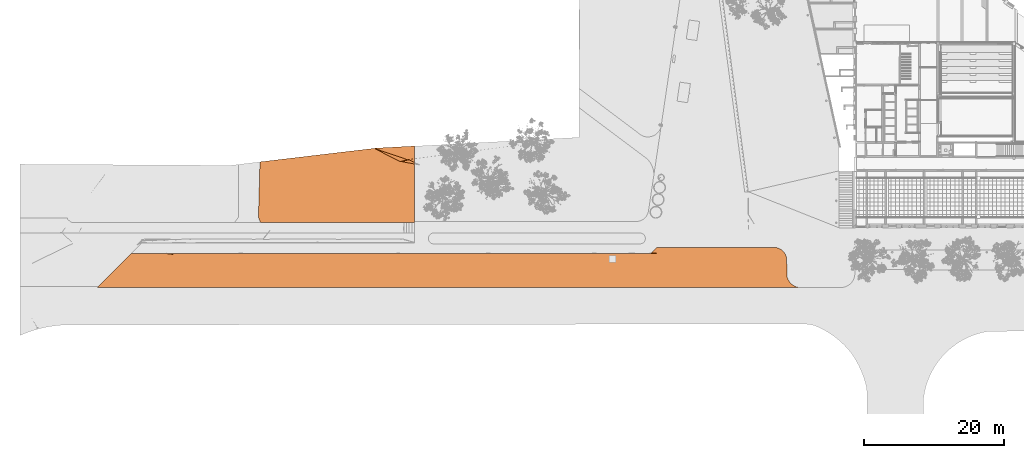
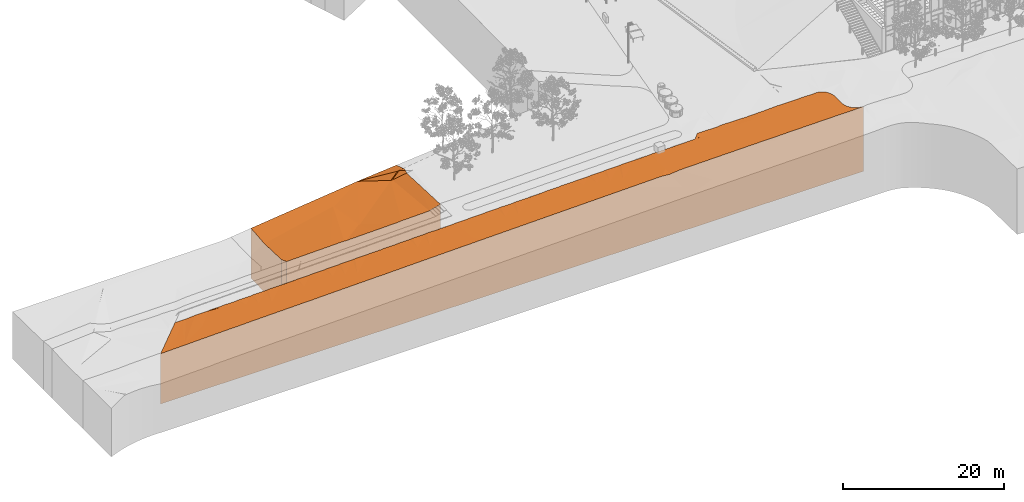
# One storey, part 209 of 246: 2 proxies.
"""IFC2X3 building model written with IfcOpenShell, lengths in millimetres."""

from ifc_helpers import new_model, entity, si_unit, converted_unit, derived_unit, money_unit, direction, frame, origin_with_axes, place, context, subcontext, project, spatial, faceted_brep, material, type_object, element, save


model = new_model("IFC2X3")

# Units and contexts
model_context = context("Model", 3, precision=0.01, world=origin_with_axes(), true_north=direction((0.0, 1.0)))
body_context = subcontext(model_context, "Body", "Model", "MODEL_VIEW")
ifc_project = project(units=[si_unit("LENGTHUNIT", "METRE", prefix="MILLI"), si_unit("AREAUNIT", "SQUARE_METRE"), si_unit("VOLUMEUNIT", "CUBIC_METRE"), converted_unit("PLANEANGLEUNIT", "DEGREE", entity("IfcPlaneAngleMeasure", 0.0174532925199), si_unit("PLANEANGLEUNIT", "RADIAN"), dimensions=[0, 0, 0, 0, 0, 0, 0]), si_unit("SOLIDANGLEUNIT", "STERADIAN"), money_unit("EUR"), converted_unit("TIMEUNIT", "Year", entity("IfcTimeMeasure", 31556926.0), si_unit("TIMEUNIT", "SECOND"), dimensions=[0, 0, 1, 0, 0, 0, 0]), si_unit("MASSUNIT", "GRAM", prefix="KILO"), si_unit("THERMODYNAMICTEMPERATUREUNIT", "DEGREE_CELSIUS"), si_unit("LUMINOUSINTENSITYUNIT", "LUMEN"), si_unit("ENERGYUNIT", "JOULE", prefix="MEGA"), derived_unit("THERMALCONDUCTANCEUNIT", [(si_unit("POWERUNIT", "WATT"), 1), (si_unit("LENGTHUNIT", "METRE"), -1), (si_unit("THERMODYNAMICTEMPERATUREUNIT", "KELVIN"), -1)]), derived_unit("SPECIFICHEATCAPACITYUNIT", [(si_unit("ENERGYUNIT", "JOULE"), 1), (si_unit("MASSUNIT", "GRAM", prefix="KILO"), -1), (si_unit("THERMODYNAMICTEMPERATUREUNIT", "KELVIN"), -1)]), derived_unit("MASSDENSITYUNIT", [(si_unit("MASSUNIT", "GRAM", prefix="KILO"), 1), (si_unit("VOLUMEUNIT", "CUBIC_METRE"), -1)])], contexts=[model_context])

# Site, building, storey
site_placement = place(None, origin_with_axes())
site = spatial("IfcSite", under=ifc_project, at=site_placement, Name="L.Koidula tn 11b", CompositionType="ELEMENT")
building_placement = place(site_placement, origin_with_axes())
building = spatial("IfcBuilding", under=site, at=building_placement, Name="Rakvere Riigigümnaasium", CompositionType="ELEMENT")
storey_placement = place(building_placement, origin_with_axes())
storey = spatial("IfcBuildingStorey", under=building, at=storey_placement, Name="1.korrus 0,00", CompositionType="ELEMENT", Elevation=0.0)

# Proxies
ifc_material_1 = material(Name="Roheala")
building_element_proxy_type_1 = type_object("IfcBuildingElementProxyType", Name="Roheala", PredefinedType="NOTDEFINED")
proxy_1_placement = place(storey_placement, frame((-50176.6705485, 5736.40419077, -10000.0), z_axis=(0.0, 0.0, 1.0), x_axis=(1.0, 0.0, 0.0)))
element("IfcBuildingElementProxy", 1, at=proxy_1_placement, inside=storey, type_object=building_element_proxy_type_1, material=ifc_material_1, Name="Roheala", context=body_context, shape_type="Brep", body=[
    faceted_brep([(16877.4778887, 10667.1884312, 7730.0), (22328.5963499, 10955.5426082, 7964.84720725), (22328.5963499, 10955.5426079, 0.0), (16877.4778887, 10667.1884312, 0.0), (22328.5963499, 10939.488365, 7975.38298176), (16573.1959533, 10631.116898, 7729.99999998), (22328.5963499, 5403.92965459, 8463.53694938), (22328.5963499, 0.0, 8687.55310047), (22328.5963499, 0.0, 0.0), (22328.5963499, 9119.61135897, 8585.85384289), (22328.5963499, 9094.25333933, 8582.61128806), (22328.5963499, 8934.02886416, 8592.22761851), (22328.5963499, 8671.7660686, 8570.0), (22328.5963499, 8629.38698405, 8570.0), (22328.5963499, 8391.7743133, 8320.44159755), (295.800167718, 0.535725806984, 0.0), (0.0, 781.068080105, 0.0), (215.231104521, 8691.9386778, 0.0), (20811.2168008, 0.0, 0.0), (215.231104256, 8691.93868004, 7539.6358402), (21380.8134099, 8995.62824052, 8570.0), (20844.8698516, 0.0, 8261.183063), (20811.2168008, 0.0, 8250.72325494), (21580.8134099, 8995.62824052, 8570.0), (20481.6853864, 8734.1562761, 7730.0), (20753.5750972, 0.00150521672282, 8232.80738791), (261.885666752, 90.0264299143, 7721.4612384), (0.0, 781.068080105, 7664.89892207), (295.800167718, 0.535725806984, 7728.53965082), (275.657588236, 53.6862534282, 7724.1333778), (197.895851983, 8054.77733484, 7500.99364094), (110.712437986, 4850.33015268, 7371.43005104), (122.341743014, 5277.76803356, 7340.0), (125.466775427, 5392.62934549, 7345.92364521), (6078.81976704, 0.384711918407, 7870.00737677), (20699.2292839, 0.00292436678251, 8232.80738099), (16746.5243081, 0.106142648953, 8136.1138474), (16209.2754863, 0.12017200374, 8084.17802217), (12523.015072, 0.216432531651, 7994.0029261), (12503.3669168, 0.216945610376, 7994.00282989), (8817.09700519, 0.313206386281, 7903.82749508), (8560.18422317, 0.319915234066, 7934.33358779), (6592.49397331, 0.371298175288, 7886.19873262), (11405.7484864, 7707.72111136, 7530.0), (20281.6853864, 8734.1562761, 7730.0), (297.138269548, 5277.76803356, 7340.0), (12387.4097871, 2741.46843888, 7480.0), (12187.4097871, 2741.46843888, 7480.0), (11605.7484864, 7707.72111136, 7530.0), (11608.571617, 7689.78443061, 7529.81941415)], [[[0, 1, 2, 3]], [[4, 1, 0, 5]], [[6, 7, 8, 2, 1, 4, 9, 10, 11, 12, 13, 14]], [[15, 16, 17, 3, 2, 8, 18]], [[5, 0, 3, 17, 19]], [[9, 4, 5, 20]], [[7, 6, 21]], [[21, 22, 18, 8, 7]], [[10, 9, 20, 23]], [[11, 10, 23]], [[12, 11, 23]], [[13, 12, 23]], [[14, 13, 23, 24]], [[6, 14, 24, 25, 22, 21]], [[26, 27, 16, 15, 28, 29]], [[30, 19, 17, 16, 27, 31, 32, 33]], [[34, 28, 15, 18, 22, 25, 35, 36, 37, 38, 39, 40, 41, 42]], [[5, 19, 30, 43]], [[20, 5, 44]], [[44, 24, 23, 20]], [[35, 25, 24, 44]], [[27, 26, 31]], [[28, 34, 45, 29]], [[26, 29, 45, 32, 31]], [[33, 32, 45]], [[30, 33, 45, 43]], [[36, 35, 44]], [[37, 36, 44, 46]], [[38, 37, 46]], [[39, 38, 46, 47]], [[40, 39, 47]], [[41, 40, 47, 43]], [[42, 41, 43]], [[34, 42, 43, 45]], [[48, 5, 43]], [[46, 44, 5]], [[49, 48, 43, 47, 46]], [[49, 5, 48]], [[5, 49, 46]]]),
])
ifc_material_2 = material(Name="Asfalt")
building_element_proxy_type_2 = type_object("IfcBuildingElementProxyType", Name="Asfalt", PredefinedType="NOTDEFINED")
proxy_2_placement = place(storey_placement, frame((-73297.5655009, -3564.03895232, -10000.0), z_axis=(0.0, 0.0, 1.0), x_axis=(1.0, 0.0, 0.0)))
element("IfcBuildingElementProxy", 2, at=proxy_2_placement, inside=storey, type_object=building_element_proxy_type_2, material=ifc_material_2, Name="Parkimisala", context=body_context, shape_type="Brep", body=[
    faceted_brep([(0.0, 0.0, 7606.31808736), (3386.76623469, 0.174055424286, 7700.0), (3473.62499258, 96.3402305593, 7700.0), (5998.84073362, 4893.33674949, 7650.0), (3472.55105194, 2096.33994313, 7650.0), (288.698134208, 288.704452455, 7607.09086194), (0.0, 0.0, 0.0), (100662.353505, 5.1733209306, 0.0), (100662.353505, 5.1733209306, 9815.58551147), (100639.963195, 5.1721702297, 9811.55759858), (100573.520285, 5.16875554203, 9799.7765437), (100552.548513, 5.16767774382, 9799.47431158), (98758.1492193, 5.0754585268, 9750.0), (97273.6056313, 4.99916366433, 9750.0), (93601.2758281, 4.81043232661, 9700.0), (89928.9460265, 4.62170098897, 9650.0), (89892.394786, 4.61982251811, 9649.50234097), (87529.1656203, 4.49836953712, 9600.0), (86476.6868159, 4.4442796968, 9600.0), (83439.4376058, 4.28818693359, 9550.0), (80402.1883972, 4.13209417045, 9500.0), (77364.9391884, 3.97600140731, 9450.0), (74327.6899799, 3.81990864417, 9400.0), (74310.1189043, 3.81900561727, 9399.7107403), (72951.3480991, 3.74917457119, 9250.57346946), (71766.7394745, 3.68829420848, 9350.0), (69600.4829078, 3.57696420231, 9300.0), (67434.2262209, 3.46563418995, 9250.0), (65267.9695351, 3.35430417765, 9200.0), (63101.7128482, 3.2429741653, 9150.0), (60935.4561613, 3.13164415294, 9100.0), (60892.1167524, 3.12941681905, 9098.99967051), (59087.517054, 3.0366733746, 9050.0), (58769.1994764, 3.02031414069, 9050.0), (56602.9427895, 2.90898412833, 9000.0), (54436.6862136, 2.79765412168, 8950.0), (52270.4295256, 2.68632410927, 8900.0), (50104.1728376, 2.57499409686, 8850.0), (47937.9161507, 2.46366408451, 8800.0), (45771.6594638, 2.35233407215, 8750.0), (45763.5573694, 2.35191768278, 8749.81299321), (45745.8275539, 2.35100649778, 8749.38567486), (44164.0714655, 2.26971561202, 8700.0), (43696.7723154, 2.24569979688, 8700.0), (41652.7979031, 2.14065421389, 8650.0), (39608.8234916, 2.03560863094, 8600.0), (37564.8490793, 1.93056304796, 8550.0), (35520.8746676, 1.825517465, 8500.0), (35487.9567569, 1.82382572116, 8499.19475727), (33778.6959695, 1.73598201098, 8450.0), (33476.9002554, 1.72047188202, 8450.0), (33463.2570501, 1.71977071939, 8449.66625792), (32153.4753983, 1.65245736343, 8400.0), (31432.9258438, 1.61542629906, 8400.0), (29388.9514316, 1.51038071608, 8350.0), (27344.9770199, 1.40533513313, 8300.0), (25301.0026084, 1.30028955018, 8250.0), (23257.028197, 1.19524396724, 8200.0), (23249.8371389, 1.19487439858, 8199.82409129), (23234.2069954, 1.19407112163, 8199.45074045), (21726.9437298, 1.11660863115, 8150.0), (21164.366901, 1.08769622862, 8150.0), (19032.8215464, 0.978150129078, 8100.0), (16901.2761788, 0.868604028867, 8050.0), (14769.730798, 0.759057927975, 8000.0), (12638.1854323, 0.649511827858, 7950.0), (12624.9512256, 0.648831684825, 7949.6895631), (11247.9661072, 0.578064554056, 7900.0), (10617.118686, 0.545643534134, 7900.0), (8809.53057307, 0.452746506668, 7850.0), (7001.94245939, 0.359849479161, 7800.0), (5194.3543448, 0.266952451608, 7750.0), (5065.74236552, 0.260342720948, 7746.44244226), (3473.67662864, 0.178521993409, 7700.0), (6478.26979039, 4900.45919065, 7650.08172194), (6229.34829425, 4900.46941823, 7650.0), (3471.81242302, 3471.88840469, 7650.0), (4900.41677371, 4900.52402083, 7650.0), (4900.41677371, 4900.52402083, 0.0), (79349.5777409, 4897.46508418, 0.0), (80205.6124778, 5750.51240294, 0.0), (96978.1072217, 5750.51551246, 0.0), (97126.5599097, 5742.16686858, 0.0), (97262.0794881, 5722.82065598, 0.0), (97395.8002194, 5693.51881115, 0.0), (97526.9917672, 5654.42137059, 0.0), (97654.9376088, 5605.74187097, 0.0), (97778.9389485, 5547.74618284, 0.0), (97898.3185339, 5480.75105853, 0.0), (98012.424355, 5405.12240219, 0.0), (98120.6332055, 5321.2732713, 0.0), (98222.3540862, 5229.66162074, 0.0), (98317.0314328, 5130.78780159, 0.0), (98404.1481506, 5025.19182835, 0.0), (98483.2284382, 4913.45042961, 0.0), (98553.8403865, 4796.17389814, 0.0), (98615.5983376, 4674.00275769, 0.0), (98668.1649909, 4547.60426467, 0.0), (98711.2532456, 4417.6687638, 0.0), (98744.6277686, 4284.90591775, 0.0), (98768.1062798, 4150.04083113, 0.0), (98781.5605478, 4013.81009028, 0.0), (98783.2388189, 3945.38391528, 0.0), (98787.2660609, 1843.34329697, 0.0), (98793.4045584, 1772.40067736, 0.0), (98815.6594088, 1631.73487713, 0.0), (98847.781242, 1492.98930586, 0.0), (98889.6100287, 1356.85518699, 0.0), (98940.93738, 1224.01073386, 0.0), (99001.5075856, 1095.11777086, 0.0), (99071.0188878, 970.818436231, 0.0), (99149.1249847, 851.731983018, 0.0), (99235.4367557, 738.451693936, 0.0), (99329.5242, 631.54192569, 0.0), (99430.9185786, 531.535297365, 0.0), (99539.1147498, 438.930036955, 0.0), (99653.5736857, 354.187499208, 0.0), (99773.7251577, 277.729867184, 0.0), (99898.9705772, 209.93804896, 0.0), (100028.685978, 151.149779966, 0.0), (100162.225124, 101.657940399, 0.0), (100298.92273, 61.709096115, 0.0), (100438.097776, 31.5022702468, 0.0), (100579.056898, 11.1879516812, 0.0), (100579.056898, 11.1879516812, 9800.88728535), (100600.918483, 9.60938367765, 9804.72971643), (100573.8372, 11.9401883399, 9799.97790864), (100572.36583, 12.152234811, 9799.96286908), (99898.9705772, 209.93804896, 9779.75803883), (99773.7251577, 277.729867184, 9775.74334368), (99653.5736857, 354.187499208, 9771.79733037), (99539.1147498, 438.930036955, 9767.93965775), (99430.9185786, 531.535297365, 9764.18954453), (99329.5242, 631.54192569, 9760.5656736), (99235.4367557, 738.451693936, 9757.0860989), (99149.1249847, 851.731983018, 9753.7681555), (99071.0188878, 970.818436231, 9750.62837322), (99056.1922235, 997.331311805, 9750.0), (100438.097776, 31.5022702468, 9796.10058559), (100298.92273, 61.709096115, 9792.01309346), (100162.225124, 101.657940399, 9787.91322809), (100028.685978, 151.149779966, 9783.82141481), (99055.4777975, 998.608840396, 9750.0), (98545.6913011, 697.868840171, 9750.0), (98545.6414487, 2697.86883865, 9700.0), (98545.5915966, 4697.86883805, 9650.0), (95240.6760153, 4897.78645785, 9600.0), (87529.1483455, 697.539171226, 9600.0), (87529.0984937, 2697.52018702, 9550.0), (87529.0486419, 4697.50120189, 9500.0), (84795.8332254, 4897.56550925, 9450.0), (81946.2781356, 3021.0008834, 9450.0), (81758.7725695, 4897.53358638, 9400.0), (79349.6210722, 4897.50826424, 9360.33744843), (79349.5777409, 4897.46508418, 9360.33781461), (78721.6955418, 4897.49088235, 9350.0), (72951.3366033, 1097.44100829, 9350.0), (72951.3155814, 3097.4410073, 9300.0), (70523.2406358, 855.555403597, 9300.0), (72734.6784638, 4897.43544016, 9250.0), (68956.7196477, 1409.17759389, 9250.0), (70568.4964358, 4897.37972238, 9200.0), (67390.1986598, 1962.79978324, 9200.0), (68402.3144076, 4897.32400554, 9150.0), (65823.6776718, 2516.4219726, 9150.0), (66236.1323795, 4897.2682887, 9100.0), (64257.1566838, 3070.04416195, 9100.0), (59087.5094952, 296.914654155, 9050.0), (64069.9503517, 4897.21257277, 9050.0), (62690.6356959, 3623.6663513, 9050.0), (61903.7683236, 4897.15685406, 9000.0), (61124.1147078, 4177.2885416, 9000.0), (59557.59372, 4730.91073094, 8950.0), (59087.4066148, 4296.78889829, 8950.0), (55719.6796747, 1187.35966909, 8950.0), (57571.4042675, 4897.0454213, 8900.0), (54153.1852014, 1740.99670792, 8900.0), (55405.2222395, 4896.98970445, 8850.0), (52586.6907284, 2294.63374675, 8850.0), (53239.0402114, 4896.93398667, 8800.0), (51020.1962552, 2848.27078651, 8800.0), (51072.8581835, 4896.87826981, 8750.0), (49453.7017822, 3401.90782534, 8750.0), (47887.2073091, 3955.54486603, 8700.0), (45224.0743183, 1496.72782758, 8700.0), (48906.6761554, 4896.82255297, 8700.0), (44157.7101591, 453.278547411, 8700.0), (45224.128659, 3496.72782663, 8650.0), (44611.0236145, 4896.74449327, 8600.0), (42567.2133055, 4896.80002484, 8550.0), (39892.4165227, 2279.48139326, 8550.0), (40523.4029968, 4896.85555547, 8500.0), (38470.6519772, 2888.21567521, 8500.0), (33778.703993, 297.038811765, 8450.0), (38479.5926877, 4896.91108704, 8450.0), (37048.8874317, 3496.9499581, 8450.0), (32143.6666138, 697.083236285, 8400.0), (36435.782379, 4896.96661767, 8400.0), (35627.1228862, 4105.68423912, 8400.0), (34205.3583408, 4714.41852293, 8350.0), (33778.8126743, 4297.03880708, 8350.0), (32348.1617611, 4897.07767895, 8300.0), (29300.1375227, 1914.55179926, 8300.0), (30304.3514522, 4897.13320959, 8250.0), (27878.3729772, 2523.28608214, 8250.0), (28260.5411433, 4897.18874115, 8200.0), (26456.6084316, 3132.0203641, 8200.0), (26216.7308345, 4897.24427178, 8150.0), (25034.8438861, 3740.75464605, 8150.0), (22333.3880075, 1097.34979225, 8150.0), (21535.6920582, 349.551382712, 8150.0), (22332.5544577, 1097.34975716, 8150.0), (22332.3453176, 3097.34974564, 8100.0), (22118.9894113, 4897.32673589, 8049.99999999), (19987.3126819, 4897.09682157, 8000.0), (17188.5424943, 2270.65115148, 8000.0), (17855.6359525, 4896.86690631, 7950.0), (15739.4926397, 2911.01774138, 7950.0), (11247.891085, 696.154194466, 7900.0), (15723.9592232, 4896.63699197, 7900.0), (14290.442785, 3551.38433221, 7900.0), (11245.4019918, 696.153390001, 7900.0), (11244.3273893, 2696.15310147, 7850.0), (11243.2527869, 4696.152812, 7800.0), (7458.94658148, 2507.52425326, 7750.0), (9615.60252377, 4895.2788437, 7750.0), (7807.22162864, 4894.3077966, 7750.0), (7229.05107356, 4900.42834285, 7706.33261385), (17855.1248228, 4899.99174309, 7950.24622321), (17943.7533273, 4899.98810155, 7960.37253632), (18275.463918, 4899.97447237, 8000.0), (19662.3411427, 4899.91748892, 8000.0), (19985.7299377, 4899.90420166, 8000.09265846), (20066.6292976, 4899.9008777, 8009.318437), (21830.9167493, 4899.82838738, 8049.99999999), (22117.5870304, 4899.81660878, 8050.082179), (22120.9917267, 4899.81646889, 8050.4697202), (22143.3283429, 4899.81555114, 8053.06786647), (22188.1395884, 4899.81370995, 8058.2802865), (22535.1446839, 4899.79945235, 8100.0), (23907.1661048, 4899.74307929, 8100.0), (24171.6059843, 4899.73221409, 8100.08027641), (24238.9842393, 4899.72944568, 8108.10483343), (24585.3544908, 4899.71521416, 8150.0), (25954.1034652, 4899.65897557, 8150.0), (26216.5961969, 4899.64819037, 8150.21796815), (26282.0410656, 4899.6455014, 8158.01005142), (26623.2197582, 4899.63148319, 8200.0), (28001.0404049, 4899.57487186, 8200.0), (28259.8357445, 4899.56423858, 8200.14720081), (28325.0974157, 4899.56155714, 8207.91526644), (28664.1605877, 4899.54762585, 8250.0), (30047.9768182, 4899.49076818, 8250.0), (30303.3609564, 4899.48027506, 8250.11046656), (30368.1533399, 4899.47761289, 8257.82048467), (30706.3033903, 4899.46371912, 8300.0), (32094.9128441, 4899.40666451, 8300.0), (32347.0057088, 4899.39630662, 8300.08797383), (32411.2087882, 4899.39366867, 8307.72569994), (32777.2925687, 4899.37862717, 8350.0), (32849.2460983, 4899.37567077, 8350.0), (34136.5703834, 4899.32277772, 8355.44596618), (34390.7352913, 4899.31233469, 8350.07558263), (34454.2638106, 4899.30972446, 8357.63091843), (34761.8558623, 4899.29708624, 8396.78278966), (34813.1677159, 4899.29497796, 8400.0), (36188.7835423, 4899.23845722, 8400.0), (36435.906888, 4899.22830352, 8400.23464591), (36497.3183351, 4899.22578027, 8407.5361313), (36845.9000199, 4899.21145789, 8450.0), (38235.7182145, 4899.15435361, 8450.0), (38479.0409084, 4899.14435607, 8450.15143108), (38540.3724298, 4899.1418361, 8457.44134689), (38885.350804, 4899.12766177, 8500.0), (40282.652342, 4899.07025002, 8500.0), (40522.5348925, 4899.06039382, 8500.11103695), (40583.4260993, 4899.05789195, 8507.34656576), (40926.8594251, 4899.0437811, 8550.0), (42329.5860857, 4898.98614644, 8550.0), (42566.1678532, 4898.97642587, 8550.08717516), (42626.4792918, 4898.97394782, 8557.25178159), (44376.5192996, 4898.90204289, 8600.0), (44610.5995394, 4898.8924251, 8600.15818348), (44669.53206, 4898.8900037, 8607.15700074), (45021.6302983, 4898.87553683, 8650.0), (45061.3317934, 4898.87390559, 8650.0), (46231.2542182, 4898.8258363, 8660.32378841), (46739.3346907, 4898.8049605, 8650.06795865), (46799.2452842, 4898.80249892, 8656.78050215), (47146.2076066, 4898.78824307, 8698.38675305), (47183.4233724, 4898.78671396, 8700.0), (48686.2357354, 4898.72496702, 8700.0), (48905.7195075, 4898.71594897, 8700.07662971), (48961.2555285, 4898.71366712, 8706.29903412), (49340.9021192, 4898.69806836, 8750.0), (50869.2672714, 4898.63527152, 8750.0), (51072.1464116, 4898.6269357, 8750.09001622), (51123.2657429, 4898.62483533, 8755.81756266), (51502.9673101, 4898.60923431, 8800.0), (53052.2988334, 4898.54557601, 8800.0), (53238.6625544, 4898.53791878, 8800.11340131), (53285.2759626, 4898.53600354, 8805.33609188), (53666.7080759, 4898.52033142, 8850.0), (55235.3304688, 4898.4558805, 8850.0), (55405.4275116, 4898.44889162, 8850.16466412), (55447.2861498, 4898.44717175, 8854.85461738), (57418.362038, 4898.36618499, 8900.0), (57570.6524689, 4898.35992775, 8900.04338369), (57609.2963687, 4898.35833996, 8904.37314657), (58028.7772628, 4898.3411045, 8950.0), (58122.2552121, 4898.33726372, 8950.0), (59526.727866, 4898.27955732, 8957.41047019), (59737.1147197, 4898.27091303, 8950.06073079), (59771.3065866, 4898.26950817, 8953.8916757), (60123.9261995, 4898.25501988, 8996.17628507), (60188.8030213, 4898.25235425, 9000.0), (61784.4250161, 4898.18679399, 9000.0), (61903.2295296, 4898.1819126, 9000.03914923), (61933.3168235, 4898.18067638, 9003.41020704), (62340.8479191, 4898.16393191, 9050.0), (63967.4567804, 4898.09709847, 9050.0), (64069.5634658, 4898.09290315, 9050.04211887), (64095.3269905, 4898.09184459, 9052.92873035), (64501.2969366, 4898.07516427, 9100.0), (66150.4882197, 4898.00740297, 9100.0), (66235.9153282, 4898.00389298, 9100.04709731), (66257.3372303, 4898.0030128, 9102.44726215), (66664.3233736, 4897.98629072, 9150.0), (68333.5197659, 4897.91770746, 9150.0), (68402.3126028, 4897.91488093, 9150.05716373), (68419.3474452, 4897.91418101, 9151.96579107), (68828.4757184, 4897.89737092, 9200.0), (70516.5513116, 4897.82801196, 9200.0), (70568.2412542, 4897.82588814, 9200.01472516), (70581.3576598, 4897.82534922, 9201.48432), (72699.5829635, 4897.73831645, 9250.0), (72734.5060554, 4897.73688154, 9250.00994871), (72734.9248478, 4897.73686433, 9250.05687129), (72745.1137296, 4897.7364457, 9251.00276594), (73252.5381739, 4897.71559685, 9300.0), (75660.8155053, 4897.61664654, 9300.0), (75684.6182824, 4897.61566854, 9300.01153241), (75690.5480697, 4897.6154249, 9300.48540463), (78512.739125, 4897.49946787, 9346.55962108), (7808.71520178, 4900.40452585, 7750.0), (9122.76394745, 4900.35053475, 7750.0), (9614.24133411, 4900.33034113, 7750.27284824), (9746.73962116, 4900.3248971, 7766.66400989), (10067.2968682, 4900.31172617, 7800.0), (11243.1340806, 4900.26341385, 7810.57568066), (11380.0428787, 4900.2577886, 7804.10961334), (11459.4442689, 4900.25452619, 7800.26650291), (11574.9183659, 4900.24978164, 7813.53508442), (11850.4373608, 4900.23846123, 7847.44652988), (11897.5233442, 4900.23652658, 7850.0), (13156.3914766, 4900.18480272, 7850.0), (13590.3485157, 4900.16697247, 7850.14610987), (13697.8978423, 4900.16255353, 7862.48085752), (14017.6776002, 4900.14941455, 7900.0), (15325.0784703, 4900.09569659, 7900.0), (15722.5874187, 4900.07936391, 7900.1791763), (15820.8428436, 4900.07532683, 7911.42667657), (16145.5232755, 4900.06198649, 7950.0), (17493.7282977, 4900.006592, 7950.0), (79364.4548723, 4912.29029685, 9350.72708216), (80066.0669663, 5611.45388194, 9434.47561017), (80205.6124778, 5750.51240294, 9435.37813992), (83061.6625355, 5750.51293243, 9400.0), (83072.2670774, 5750.5129344, 9400.17362686), (83095.1552797, 5750.51293864, 9400.55140934), (83636.2295266, 5750.51303896, 9491.54647862), (85158.6577428, 5750.51332121, 9461.67484799), (87059.6464875, 5750.51367364, 9450.0), (87501.0973811, 5750.51375548, 9456.76198976), (87561.4117092, 5750.51376666, 9458.09168756), (89506.0634651, 5750.51412822, 9500.0), (91589.3662889, 5750.51451342, 9592.27612662), (91878.7411245, 5750.51456707, 9579.21832451), (94444.9891931, 5750.51504284, 9591.73431676), (95052.0446068, 5750.51515538, 9600.0), (96780.3716049, 5750.5154758, 9600.0), (96952.5126346, 5750.51550772, 9615.9959731), (96978.1072217, 5750.51551246, 9618.14812353), (97126.5599097, 5742.16686858, 9629.83820893), (97262.0794881, 5722.82065598, 9639.3965483), (97395.8002194, 5693.51881115, 9647.85831364), (97526.9917672, 5654.42137059, 9655.17728972), (97654.9376088, 5605.74187097, 9661.31350282), (97778.9389485, 5547.74618284, 9666.23343908), (97898.3185339, 5480.75105853, 9669.91022751), (98012.424355, 5405.12240219, 9672.32378677), (98120.6332055, 5321.2732713, 9673.46093484), (98222.3540862, 5229.66162074, 9673.31546101), (98234.0188989, 5217.4797776, 9673.139609), (98317.0314328, 5130.78780159, 9670.99100231), (98404.1481506, 5025.19182835, 9667.60158529), (98483.2284382, 4913.45042961, 9663.29178917), (98553.8403865, 4796.17389814, 9658.08515256), (98592.433901, 4719.82723176, 9654.2887644), (98615.5983376, 4674.00275769, 9656.76802064), (98668.1649909, 4547.60426467, 9662.53583896), (98698.5431328, 4455.99695513, 9665.98640432), (98711.2532456, 4417.6687638, 9667.77055055), (98744.6277686, 4284.90591775, 9673.25834679), (98768.1062798, 4150.04083113, 9678.15557462), (98781.5605478, 4013.81009028, 9682.43548708), (98783.2388189, 3945.38391528, 9684.25509792), (98785.7152672, 2652.78843072, 9716.72883035), (98787.1664197, 1895.35157244, 9723.6246745), (98787.2660609, 1843.34329697, 9724.92633179), (98793.4045584, 1772.40067736, 9726.79040247), (98815.6594088, 1631.73487713, 9730.63521284), (98847.781242, 1492.98930586, 9734.57753758), (98889.6100287, 1356.85518699, 9738.59773623), (98940.93738, 1224.01073386, 9742.67578037), (99001.5075856, 1095.11777086, 9746.79135337), (96777.3587312, 5737.16195904, 9600.0), (91568.5531316, 4897.6949267, 9550.0), (87896.4302484, 4897.6033946, 9500.0), (75684.6512585, 4897.46974152, 9300.0), (46320.7128361, 4509.18190486, 8650.0), (24172.9205257, 4897.29980335, 8100.0), (22333.4423481, 3097.34979038, 8100.0), (11247.6753722, 2696.15418082, 7850.0), (13592.2824937, 4896.40707765, 7850.0), (12841.3929304, 4191.75092025, 7850.0), (11247.4596594, 4696.15416903, 7800.0), (34391.9720701, 4897.02214738, 8350.0), (46740.4941274, 4896.76683705, 8650.0), (59737.5862955, 4897.10113815, 8950.0), (11392.3430758, 4832.11751108, 7799.99999997), (11460.6057643, 4896.17716239, 7800.0)], [[[0, 1, 2, 3, 4, 5]], [[0, 6, 7, 8, 9, 10, 11, 12, 13, 14, 15, 16, 17, 18, 19, 20, 21, 22, 23, 24, 25, 26, 27, 28, 29, 30, 31, 32, 33, 34, 35, 36, 37, 38, 39, 40, 41, 42, 43, 44, 45, 46, 47, 48, 49, 50, 51, 52, 53, 54, 55, 56, 57, 58, 59, 60, 61, 62, 63, 64, 65, 66, 67, 68, 69, 70, 71, 72, 73, 1]], [[1, 73, 2]], [[3, 2, 74, 75]], [[76, 4, 3, 75, 77]], [[5, 4, 76]], [[6, 0, 5, 76, 77, 78]], [[6, 78, 79, 80, 81, 82, 83, 84, 85, 86, 87, 88, 89, 90, 91, 92, 93, 94, 95, 96, 97, 98, 99, 100, 101, 102, 103, 104, 105, 106, 107, 108, 109, 110, 111, 112, 113, 114, 115, 116, 117, 118, 119, 120, 121, 122, 123, 7]], [[7, 123, 124, 125, 8]], [[125, 9, 8]], [[126, 10, 9, 125, 124]], [[127, 11, 10, 126]], [[128, 129, 130, 131, 132, 133, 134, 135, 136, 137, 12, 11, 127, 138, 139, 140, 141]], [[13, 12, 137, 142, 143]], [[14, 13, 143, 144]], [[15, 14, 144, 145]], [[16, 15, 145, 146, 147]], [[147, 17, 16]], [[18, 17, 147]], [[19, 18, 147, 148]], [[20, 19, 148, 149]], [[21, 20, 149, 150, 151]], [[22, 21, 151, 152]], [[23, 22, 152, 153, 154, 155, 156]], [[24, 23, 156]], [[25, 24, 156]], [[26, 25, 156, 157, 158]], [[27, 26, 158, 157, 159, 160]], [[28, 27, 160, 159, 161, 162]], [[29, 28, 162, 163, 164]], [[30, 29, 164, 165, 166]], [[167, 31, 30, 166, 168, 169]], [[32, 31, 167]], [[33, 32, 167]], [[34, 33, 167, 169, 170, 171]], [[35, 34, 171, 172, 173, 174]], [[36, 35, 174, 173, 175, 176]], [[37, 36, 176, 175, 177, 178]], [[38, 37, 178, 179, 180]], [[39, 38, 180, 181, 182]], [[183, 184, 40, 39, 182, 185]], [[184, 186, 41, 40]], [[186, 42, 41]], [[186, 43, 42]], [[44, 43, 186, 184, 187]], [[45, 44, 187, 188]], [[46, 45, 188, 189, 190]], [[47, 46, 190, 191, 192]], [[193, 48, 47, 192, 194, 195]], [[49, 48, 193]], [[50, 49, 193]], [[196, 51, 50, 193, 195, 197, 198]], [[52, 51, 196]], [[53, 52, 196]], [[54, 53, 196, 198, 199, 200]], [[55, 54, 200, 201, 202]], [[56, 55, 202, 203, 204]], [[57, 56, 204, 205, 206]], [[58, 57, 206, 207, 208, 209]], [[209, 210, 59, 58]], [[210, 60, 59]], [[61, 60, 210]], [[62, 61, 210, 211, 212]], [[63, 62, 212, 213]], [[64, 63, 213, 214, 215]], [[65, 64, 215, 216, 217]], [[218, 66, 65, 217, 219, 220]], [[67, 66, 218]], [[68, 67, 218, 221]], [[69, 68, 221, 222]], [[70, 69, 222, 223]], [[224, 71, 70, 223, 225]], [[72, 71, 224, 2]], [[73, 72, 2]], [[74, 2, 226, 227]], [[228, 229, 230, 231, 232, 233, 234, 235, 236, 237, 238, 239, 240, 241, 242, 243, 244, 245, 246, 247, 248, 249, 250, 251, 252, 253, 254, 255, 256, 257, 258, 259, 260, 261, 262, 263, 264, 265, 266, 267, 268, 269, 270, 271, 272, 273, 274, 275, 276, 277, 278, 279, 280, 281, 282, 283, 284, 285, 286, 287, 288, 289, 290, 291, 292, 293, 294, 295, 296, 297, 298, 299, 300, 301, 302, 303, 304, 305, 306, 307, 308, 309, 310, 311, 312, 313, 314, 315, 316, 317, 318, 319, 320, 321, 322, 323, 324, 325, 326, 327, 328, 329, 330, 331, 332, 333, 334, 335, 336, 337, 338, 339, 340, 341, 342, 343, 155, 154, 79, 78, 77, 75, 74, 227, 344, 345, 346, 347, 348, 349, 350, 351, 352, 353, 354, 355, 356, 357, 358, 359, 360, 361, 362, 363]], [[79, 154, 153, 364, 365, 366, 80]], [[80, 366, 367, 368, 369, 370, 371, 372, 373, 374, 375, 376, 377, 378, 379, 380, 381, 382, 81]], [[82, 81, 382, 383]], [[83, 82, 383, 384]], [[84, 83, 384, 385]], [[85, 84, 385, 386]], [[86, 85, 386, 387]], [[87, 86, 387, 388]], [[88, 87, 388, 389]], [[89, 88, 389, 390]], [[90, 89, 390, 391]], [[91, 90, 391, 392]], [[92, 91, 392, 393, 394]], [[93, 92, 394, 395]], [[94, 93, 395, 396]], [[95, 94, 396, 397]], [[96, 95, 397, 398, 399]], [[97, 96, 399, 400]], [[98, 97, 400, 401, 402]], [[99, 98, 402, 403]], [[100, 99, 403, 404]], [[101, 100, 404, 405]], [[102, 101, 405, 406]], [[103, 102, 406, 407, 408, 409]], [[104, 103, 409, 410]], [[105, 104, 410, 411]], [[106, 105, 411, 412]], [[107, 106, 412, 413]], [[108, 107, 413, 414]], [[109, 108, 414, 415]], [[110, 109, 415, 142, 137, 136]], [[111, 110, 136, 135]], [[112, 111, 135, 134]], [[113, 112, 134, 133]], [[114, 113, 133, 132]], [[114, 132, 131, 115]], [[116, 115, 131, 130]], [[117, 116, 130, 129]], [[118, 117, 129, 128]], [[119, 118, 128, 141]], [[120, 119, 141, 140]], [[121, 120, 140, 139]], [[122, 121, 139, 138]], [[123, 122, 138, 127, 126, 124]], [[408, 144, 143, 142, 415, 414, 413, 412, 411, 410, 409]], [[407, 406, 405, 404, 403, 402, 401, 145, 144]], [[146, 145, 416]], [[148, 147, 146, 417]], [[149, 148, 418]], [[150, 149, 373, 372]], [[151, 150, 369, 368]], [[152, 151, 368, 367]], [[153, 152, 364]], [[157, 156, 155, 343, 419]], [[159, 157, 339, 338]], [[161, 159, 335, 334]], [[162, 161, 332, 331]], [[163, 162, 331, 330]], [[164, 163, 328, 327]], [[165, 164, 327, 326]], [[323, 166, 165, 324]], [[168, 166, 323, 322]], [[169, 168, 320, 319]], [[170, 169, 319, 318]], [[315, 171, 170, 316]], [[172, 171, 315, 314]], [[173, 172, 310, 309]], [[175, 173, 309, 308]], [[177, 175, 306, 305]], [[178, 177, 303, 302]], [[179, 178, 302, 301]], [[180, 179, 299, 298]], [[181, 180, 298, 297]], [[182, 181, 295, 294]], [[187, 184, 183, 420]], [[185, 182, 294, 293]], [[183, 185, 291, 290]], [[188, 187, 284, 283]], [[280, 189, 188, 281]], [[190, 189, 278, 277]], [[191, 190, 277, 276]], [[192, 191, 274, 273]], [[194, 192, 273, 272]], [[195, 194, 270, 269]], [[197, 195, 269, 268]], [[198, 197, 266, 265]], [[199, 198, 265, 264]], [[259, 200, 199, 260]], [[201, 200, 259, 258]], [[202, 201, 256, 255]], [[203, 202, 255, 254]], [[251, 204, 203, 252]], [[205, 204, 251, 250]], [[206, 205, 248, 247]], [[207, 206, 247, 246]], [[208, 207, 244, 243]], [[421, 422, 209, 208]], [[210, 209, 211]], [[211, 209, 422, 212]], [[213, 212, 422]], [[214, 213, 234, 233]], [[215, 214, 231, 230]], [[216, 215, 230, 229]], [[362, 217, 216, 363]], [[219, 217, 362, 361]], [[358, 220, 219, 359]], [[423, 218, 220, 424, 425]], [[222, 221, 218, 423]], [[222, 423, 426, 223]], [[225, 223, 348, 347]], [[226, 224, 225, 345, 344]], [[2, 224, 226]], [[226, 344, 227]], [[216, 229, 228]], [[231, 214, 232]], [[232, 214, 233]], [[234, 213, 235]], [[235, 213, 236]], [[213, 237, 236]], [[237, 213, 238]], [[213, 422, 239, 238]], [[422, 421, 240, 239]], [[240, 421, 241]], [[241, 421, 242]], [[421, 208, 243, 242]], [[245, 244, 207]], [[245, 207, 246]], [[248, 205, 249]], [[249, 205, 250]], [[253, 252, 203]], [[203, 254, 253]], [[257, 256, 201]], [[201, 258, 257]], [[260, 199, 261]], [[199, 427, 262, 261]], [[262, 427, 263]], [[427, 199, 264, 263]], [[267, 266, 197]], [[268, 267, 197]], [[194, 271, 270]], [[271, 194, 272]], [[274, 191, 275]], [[191, 276, 275]], [[278, 189, 279]], [[280, 279, 189]], [[281, 188, 282]], [[188, 283, 282]], [[284, 187, 420, 285]], [[420, 286, 285]], [[286, 420, 428, 287]], [[428, 288, 287]], [[428, 420, 289, 288]], [[289, 420, 183, 290]], [[291, 185, 292]], [[293, 292, 185]], [[296, 295, 181]], [[181, 297, 296]], [[300, 299, 179]], [[301, 300, 179]], [[303, 177, 304]], [[304, 177, 305]], [[306, 175, 307]], [[175, 308, 307]], [[310, 172, 311]], [[311, 172, 429, 312]], [[312, 429, 313]], [[429, 172, 314, 313]], [[316, 170, 317]], [[170, 318, 317]], [[320, 168, 321]], [[168, 322, 321]], [[324, 165, 325]], [[165, 326, 325]], [[328, 163, 329]], [[163, 330, 329]], [[332, 161, 333]], [[161, 334, 333]], [[335, 159, 336]], [[336, 159, 337]], [[337, 159, 338]], [[157, 419, 340, 339]], [[340, 419, 341]], [[342, 341, 419]], [[419, 343, 342]], [[345, 225, 346]], [[225, 347, 346]], [[348, 223, 349]], [[223, 430, 350, 349]], [[430, 431, 351, 350]], [[351, 431, 352]], [[430, 426, 353, 352, 431]], [[426, 425, 354, 353]], [[354, 425, 424, 355]], [[356, 355, 424]], [[357, 356, 424]], [[424, 220, 358, 357]], [[359, 219, 360]], [[361, 360, 219]], [[216, 228, 363]], [[364, 152, 365]], [[365, 152, 367, 366]], [[369, 150, 370]], [[370, 150, 371]], [[371, 150, 372]], [[149, 418, 374, 373]], [[374, 418, 375]], [[375, 417, 376]], [[376, 417, 377]], [[377, 417, 378]], [[417, 146, 379, 378]], [[146, 416, 380, 379]], [[416, 381, 380]], [[393, 392, 391, 390, 389, 388, 387, 386, 385, 384, 383, 382, 381, 416, 145]], [[396, 395, 394, 393, 145, 398, 397]], [[145, 401, 400, 399, 398]], [[408, 407, 144]], [[148, 417, 375]], [[418, 148, 375]], [[423, 425, 426]], [[223, 426, 430]]]),
])

save(model, "model.ifc")
